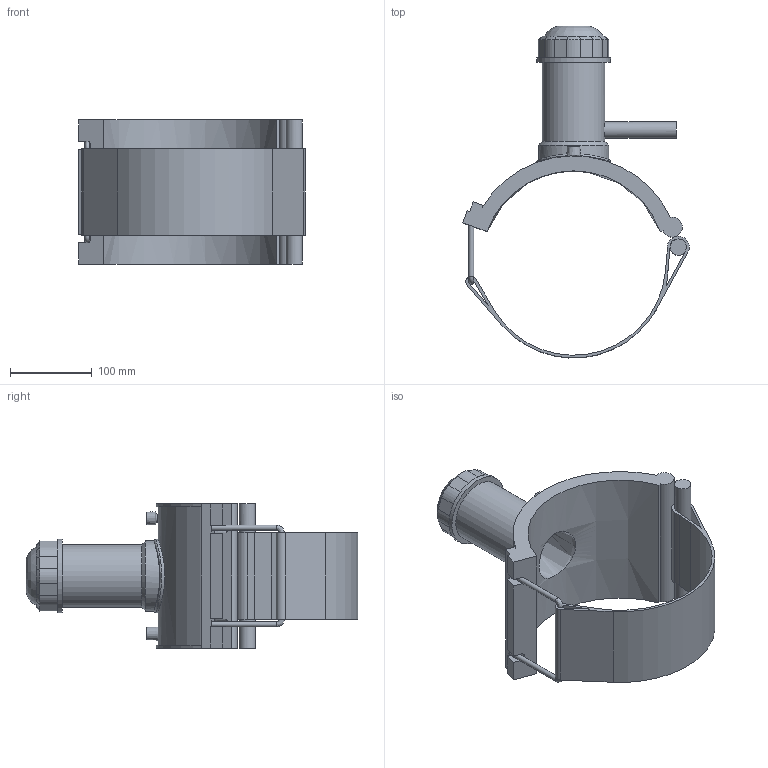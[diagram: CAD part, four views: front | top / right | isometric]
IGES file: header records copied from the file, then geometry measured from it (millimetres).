
Global section: file name: 496304225020.ipt; native system: Autodesk Inventor 2015; preprocessor: unknown; author: KIM; date: 20190124.131205; units: millimetre
Bounding box: 276.37 x 405.2 x 176 mm (x, y, z)
Volume: 1584087.4 mm3; surface area: 336966.1 mm2
Topology: 2 solids, 2 shells, 121 faces, 301 edges, 191 vertices
Faces by surface type: plane 68, cylinder 29, revolution 12, cone 11, bspline 1
Full cylindrical faces by diameter (mm): 4 x2, 6.3 x2, 19.904 x1, 20 x1, 76.5 x1, 85.5 x1, 90 x2
